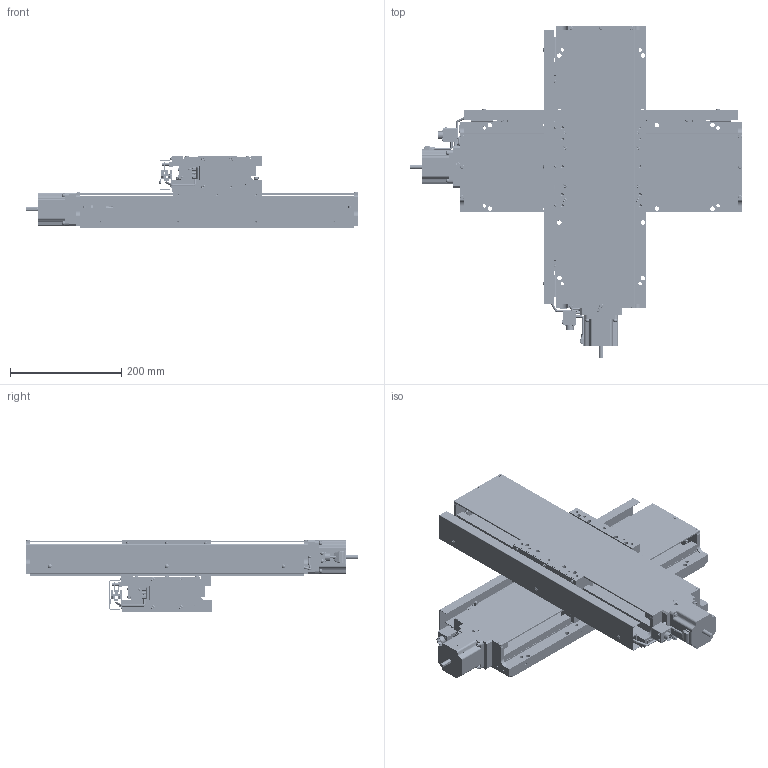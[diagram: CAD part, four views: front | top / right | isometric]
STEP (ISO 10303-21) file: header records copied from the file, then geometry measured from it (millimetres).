
FILE_DESCRIPTION( (''), '2;1');
FILE_NAME ('YA16F-L23301-RRR.stp','2021-01-05T15:32:48',(''),(''),'spGate 15.6.6','','');
FILE_SCHEMA (('AUTOMOTIVE_DESIGN'));
Length unit declared in the file: millimetre
Products named in the file (4): Assembly; YA16F-L23301-RRR-prt0; YA16F-L23301-RRR-prt1; YA16F-L23301-RRR-prt2
Assembly tree (3 placements, depth 2):
  Assembly
    YA16F-L23301-RRR-prt0
    YA16F-L23301-RRR-prt1
    YA16F-L23301-RRR-prt2
Bounding box: 596.5 x 596.5 x 130 mm (x, y, z)
Volume: 5519157.7 mm3; surface area: 1261645 mm2
Topology: 3 solids, 3 shells, 5214 faces, 12998 edges, 8088 vertices
Faces by surface type: plane 3136, cylinder 1238, bspline 776, sphere 64
Entity records: 262537 total; most frequent: CARTESIAN_POINT 38843, ORIENTED_EDGE 25652, DIRECTION 23770, COLOUR_RGB 18043, PRESENTATION_STYLE_ASSIGNMENT 18043, STYLED_ITEM 18043, EDGE_CURVE 12826, DRAUGHTING_PRE_DEFINED_CURVE_FONT 12826
